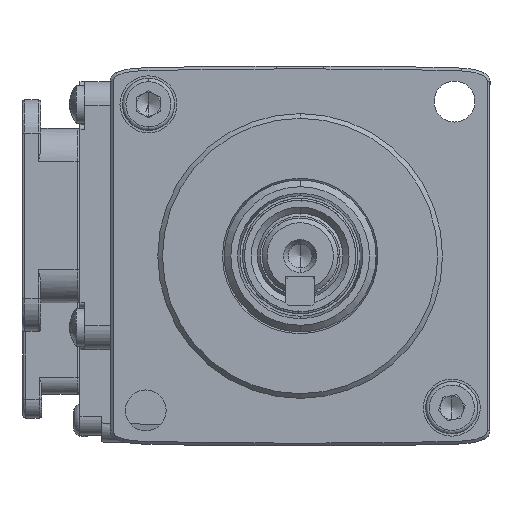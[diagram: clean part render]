
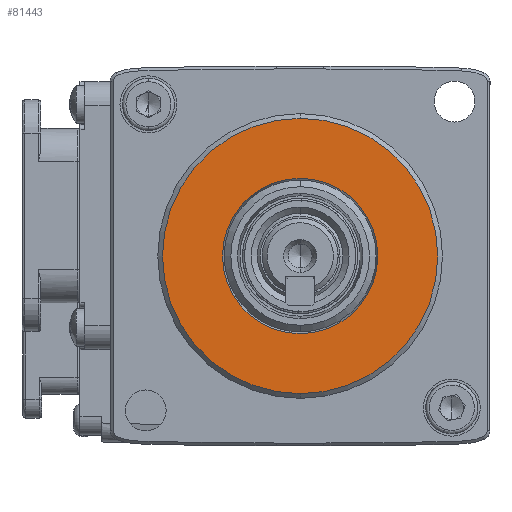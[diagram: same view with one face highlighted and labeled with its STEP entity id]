
A CAD part, left-side view. The second image highlights one B-rep face of the part: STEP entity #81443.
In plain terms, the highlighted planar face has unit normal (-1, 0, 0).
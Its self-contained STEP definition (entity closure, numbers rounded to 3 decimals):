
#432 = EDGE_CURVE ( 'NONE', #33711, #68600, #56769, .T. ) ;
#775 = AXIS2_PLACEMENT_3D ( 'NONE', #32731, #6865, #6000 ) ;
#1896 = CARTESIAN_POINT ( 'NONE',  ( -36.606, -21.366, 114.592 ) ) ;
#4213 = AXIS2_PLACEMENT_3D ( 'NONE', #64064, #28963, #23239 ) ;
#5019 = VERTEX_POINT ( 'NONE', #1896 ) ;
#5478 = DIRECTION ( 'NONE',  ( -1., 0., 0. ) ) ;
#6000 = DIRECTION ( 'NONE',  ( 0., 0., -1. ) ) ;
#6195 = ORIENTED_EDGE ( 'NONE', *, *, #12617, .F. ) ;
#6865 = DIRECTION ( 'NONE',  ( 1., 0., 0. ) ) ;
#7194 = DIRECTION ( 'NONE',  ( 0., 0., 1. ) ) ;
#8383 = FACE_OUTER_BOUND ( 'NONE', #76010, .T. ) ;
#9275 = CIRCLE ( 'NONE', #16269, 8.182 ) ;
#12153 = EDGE_CURVE ( 'NONE', #32525, #5019, #9275, .T. ) ;
#12617 = EDGE_CURVE ( 'NONE', #68600, #33711, #14895, .T. ) ;
#13117 = DIRECTION ( 'NONE',  ( 0., 0., -1. ) ) ;
#14895 = CIRCLE ( 'NONE', #75229, 14.5 ) ;
#16269 = AXIS2_PLACEMENT_3D ( 'NONE', #20281, #5478, #7194 ) ;
#20281 = CARTESIAN_POINT ( 'NONE',  ( -36.606, -21.366, 106.41 ) ) ;
#21715 = DIRECTION ( 'NONE',  ( 1., 0., 0. ) ) ;
#22361 = ORIENTED_EDGE ( 'NONE', *, *, #12153, .F. ) ;
#23239 = DIRECTION ( 'NONE',  ( 0., 0., -1. ) ) ;
#28512 = FACE_BOUND ( 'NONE', #28795, .T. ) ;
#28795 = EDGE_LOOP ( 'NONE', ( #85297, #22361 ) ) ;
#28963 = DIRECTION ( 'NONE',  ( 1., 0., 0. ) ) ;
#32525 = VERTEX_POINT ( 'NONE', #37375 ) ;
#32731 = CARTESIAN_POINT ( 'NONE',  ( -36.606, -21.366, 106.41 ) ) ;
#33711 = VERTEX_POINT ( 'NONE', #68103 ) ;
#33761 = CARTESIAN_POINT ( 'NONE',  ( -36.606, -21.366, 106.41 ) ) ;
#37375 = CARTESIAN_POINT ( 'NONE',  ( -36.606, -21.366, 98.228 ) ) ;
#46469 = CIRCLE ( 'NONE', #63343, 8.182 ) ;
#53051 = CARTESIAN_POINT ( 'NONE',  ( -36.606, -21.366, 106.41 ) ) ;
#53942 = DIRECTION ( 'NONE',  ( 0., 0., 1. ) ) ;
#56139 = EDGE_CURVE ( 'NONE', #5019, #32525, #46469, .T. ) ;
#56769 = CIRCLE ( 'NONE', #775, 14.5 ) ;
#63343 = AXIS2_PLACEMENT_3D ( 'NONE', #33761, #73364, #53942 ) ;
#64064 = CARTESIAN_POINT ( 'NONE',  ( -36.606, -29.366, 106.41 ) ) ;
#68103 = CARTESIAN_POINT ( 'NONE',  ( -36.606, -21.366, 91.91 ) ) ;
#68391 = CARTESIAN_POINT ( 'NONE',  ( -36.606, -21.366, 120.91 ) ) ;
#68600 = VERTEX_POINT ( 'NONE', #68391 ) ;
#68635 = ORIENTED_EDGE ( 'NONE', *, *, #432, .F. ) ;
#73364 = DIRECTION ( 'NONE',  ( -1., 0., 0. ) ) ;
#75229 = AXIS2_PLACEMENT_3D ( 'NONE', #53051, #21715, #13117 ) ;
#76010 = EDGE_LOOP ( 'NONE', ( #68635, #6195 ) ) ;
#81443 = ADVANCED_FACE ( 'NONE', ( #8383, #28512 ), #82123, .F. ) ;
#82123 = PLANE ( 'NONE',  #4213 ) ;
#85297 = ORIENTED_EDGE ( 'NONE', *, *, #56139, .F. ) ;
